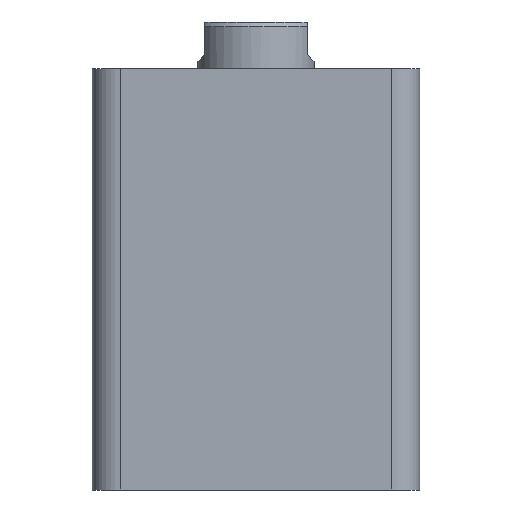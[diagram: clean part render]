
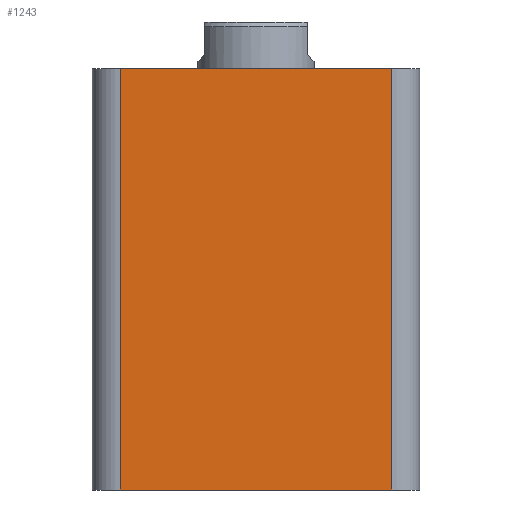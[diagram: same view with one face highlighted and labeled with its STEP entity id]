
A CAD part, front view. The second image highlights one B-rep face of the part: STEP entity #1243.
In plain terms, the highlighted planar face has unit normal (0, -1, 0).
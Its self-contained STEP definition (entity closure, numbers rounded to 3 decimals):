
#24 = FACE_OUTER_BOUND ( 'NONE', #985, .T. ) ;
#166 = VECTOR ( 'NONE', #2214, 1000. ) ;
#170 = LINE ( 'NONE', #2203, #166 ) ;
#202 = VECTOR ( 'NONE', #2443, 1000. ) ;
#204 = LINE ( 'NONE', #2455, #202 ) ;
#584 = AXIS2_PLACEMENT_3D ( 'NONE', #2225, #2217, #2210 ) ;
#684 = EDGE_CURVE ( 'NONE', #1093, #1102, #204, .T. ) ;
#797 = EDGE_CURVE ( 'NONE', #1102, #1086, #170, .T. ) ;
#927 = ORIENTED_EDGE ( 'NONE', *, *, #1544, .F. ) ;
#928 = ORIENTED_EDGE ( 'NONE', *, *, #1613, .T. ) ;
#929 = ORIENTED_EDGE ( 'NONE', *, *, #684, .T. ) ;
#930 = ORIENTED_EDGE ( 'NONE', *, *, #797, .T. ) ;
#985 = EDGE_LOOP ( 'NONE', ( #927, #928, #929, #930 ) ) ;
#1081 = VERTEX_POINT ( 'NONE', #2154 ) ;
#1086 = VERTEX_POINT ( 'NONE', #2609 ) ;
#1093 = VERTEX_POINT ( 'NONE', #2597 ) ;
#1102 = VERTEX_POINT ( 'NONE', #2585 ) ;
#1243 = ADVANCED_FACE ( 'NONE', ( #24 ), #2219, .F. ) ;
#1544 = EDGE_CURVE ( 'NONE', #1081, #1086, #1880, .T. ) ;
#1613 = EDGE_CURVE ( 'NONE', #1081, #1093, #1939, .T. ) ;
#1639 = CARTESIAN_POINT ( 'NONE',  ( -29., -35., 90. ) ) ;
#1652 = DIRECTION ( 'NONE',  ( 0., 0., -1. ) ) ;
#1849 = VECTOR ( 'NONE', #2158, 1000. ) ;
#1880 = LINE ( 'NONE', #2157, #1849 ) ;
#1939 = LINE ( 'NONE', #1639, #1954 ) ;
#1954 = VECTOR ( 'NONE', #1652, 1000. ) ;
#2154 = CARTESIAN_POINT ( 'NONE',  ( -29., -35., 90. ) ) ;
#2157 = CARTESIAN_POINT ( 'NONE',  ( -35., -35., 90. ) ) ;
#2158 = DIRECTION ( 'NONE',  ( 1., 0., 0. ) ) ;
#2203 = CARTESIAN_POINT ( 'NONE',  ( 29., -35., 90. ) ) ;
#2210 = DIRECTION ( 'NONE',  ( 0., 0., 1. ) ) ;
#2214 = DIRECTION ( 'NONE',  ( 0., 0., 1. ) ) ;
#2217 = DIRECTION ( 'NONE',  ( 0., 1., 0. ) ) ;
#2219 = PLANE ( 'NONE',  #584 ) ;
#2225 = CARTESIAN_POINT ( 'NONE',  ( -35., -35., 90. ) ) ;
#2443 = DIRECTION ( 'NONE',  ( 1., 0., 0. ) ) ;
#2455 = CARTESIAN_POINT ( 'NONE',  ( -35., -35., 0. ) ) ;
#2585 = CARTESIAN_POINT ( 'NONE',  ( 29., -35., 0. ) ) ;
#2597 = CARTESIAN_POINT ( 'NONE',  ( -29., -35., 0. ) ) ;
#2609 = CARTESIAN_POINT ( 'NONE',  ( 29., -35., 90. ) ) ;
